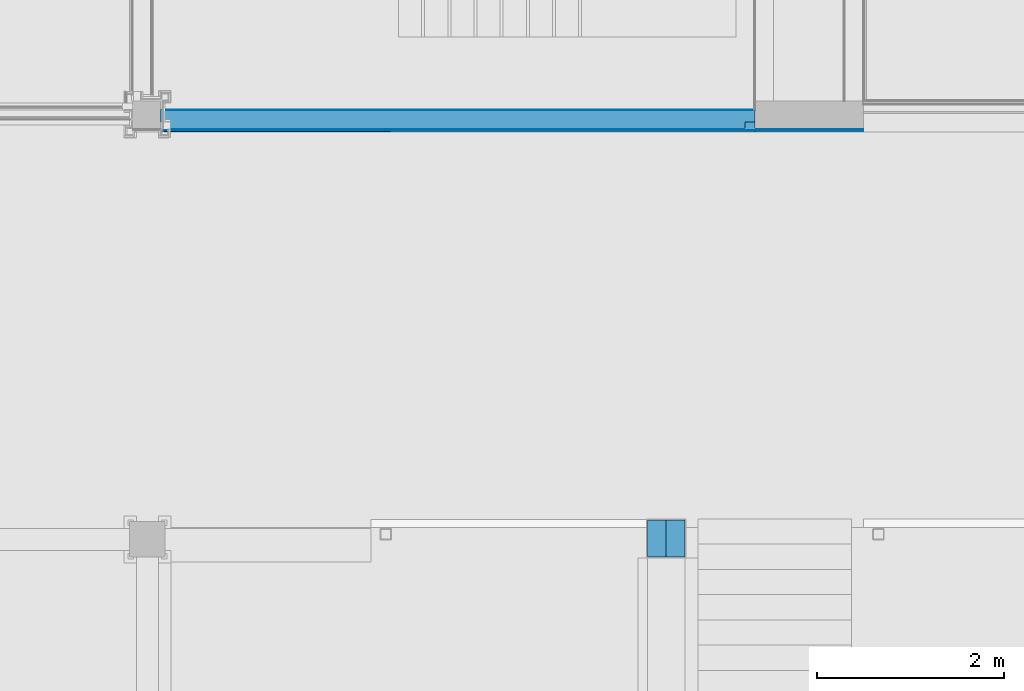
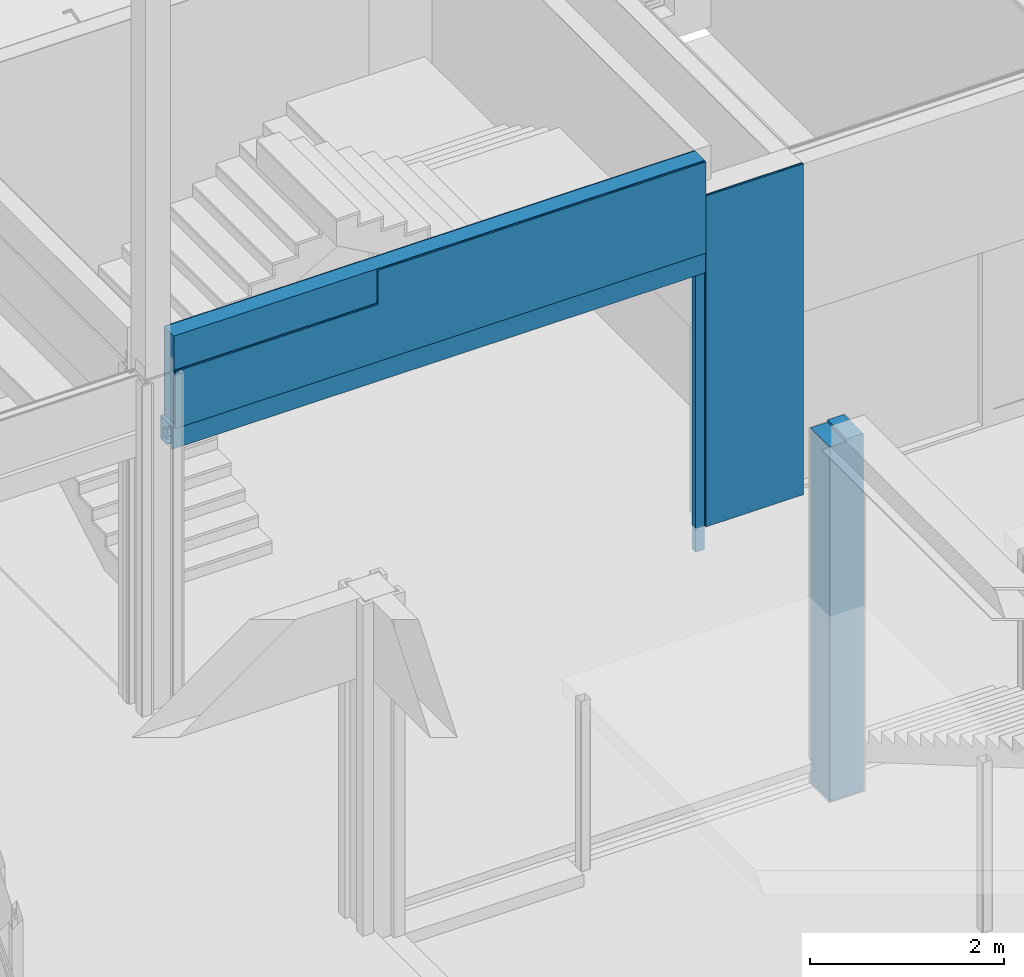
# One storey, part 145 of 260: 7 building element parts, 2 discrete accessories, 1 opening, 3 elements without a shape of their own.
"""IFC2X3 building model written with IfcOpenShell, lengths in millimetres."""

import ifcopenshell
import ifcopenshell.guid

model = None  # the IFC model being written
_history = None  # IfcOwnerHistory: only IFC2X3 demands one
_inside = {}  # id of a spatial element -> (the spatial element, [elements in it])
_under = {}  # id of a project, library or spatial element -> (it, [spatial elements below it])
_declared = {}  # id of a project -> (the project, [libraries it declares])
_typed = {}  # id of a type object -> (the type object, [elements of that type])
_made_of = {}  # id of a material, layer set ... -> (it, [elements and type objects made of it])


def new_model(schema):
    """Start an empty IFC model of exactly this schema.

    Asked for "IFC4X3", IfcOpenShell would pick the latest addendum, in which some entities
    have other attributes; the version numbers below select the first issue.
    IFC2X3 requires an IfcOwnerHistory on every rooted entity: one is made here for all.
    """
    global model, _history
    if schema == "IFC4X3":
        model = ifcopenshell.file(schema_version=(4, 3, 0, 0))
    else:
        model = ifcopenshell.file(schema=schema)
    _inside.clear()
    _under.clear()
    _declared.clear()
    _typed.clear()
    _made_of.clear()
    _history = None
    if model.schema == "IFC2X3":
        org = make("IfcOrganization", Name="unknown")
        user = make(
            "IfcPersonAndOrganization",
            ThePerson=make("IfcPerson", FamilyName="unknown"),
            TheOrganization=org,
        )
        app = make(
            "IfcApplication",
            ApplicationDeveloper=org,
            Version="unknown",
            ApplicationFullName="unknown",
            ApplicationIdentifier="unknown",
        )
        _history = make(
            "IfcOwnerHistory",
            OwningUser=user,
            OwningApplication=app,
            ChangeAction="ADDED",
            CreationDate=0,
        )
    return model


def make(cls, **values):
    """One entity of the class cls with the attributes given. An attribute that is None is left unset."""
    return model.create_entity(
        cls, **{name: value for name, value in values.items() if value is not None}
    )


def entity(cls, *values):
    """Any entity or typed value of the class cls, its attributes in the order of the schema. None: left unset."""
    e = model.create_entity(cls)
    for i, value in enumerate(values):
        if value is not None:
            e[i] = value
    return e


def rooted(cls, **values):
    """An entity with a GlobalId (a new one), such as an element, a storey or a relation."""
    return make(cls, GlobalId=ifcopenshell.guid.new(), OwnerHistory=_history, **values)


def si_unit(unit_type, name, prefix=None):
    """IfcSIUnit, for example si_unit("LENGTHUNIT", "METRE", prefix="MILLI")."""
    return make("IfcSIUnit", UnitType=unit_type, Prefix=prefix, Name=name)


def converted_unit(unit_type, name, factor, base, dimensions=None, offset=None):
    """IfcConversionBasedUnit, such as the inch: factor (a typed value) times the base unit."""
    return make(
        "IfcConversionBasedUnit"
        if offset is None
        else "IfcConversionBasedUnitWithOffset",
        ConversionOffset=offset,
        Dimensions=None
        if dimensions is None
        else entity("IfcDimensionalExponents", *dimensions),
        UnitType=unit_type,
        Name=name,
        ConversionFactor=make(
            "IfcMeasureWithUnit", ValueComponent=factor, UnitComponent=base
        ),
    )


def derived_unit(unit_type, elements):
    """IfcDerivedUnit: a product of units, each with its exponent."""
    return make(
        "IfcDerivedUnit",
        Elements=[
            make("IfcDerivedUnitElement", Unit=unit, Exponent=power)
            for unit, power in elements
        ],
        UnitType=unit_type,
    )


def money_unit(currency):
    """IfcMonetaryUnit."""
    return make("IfcMonetaryUnit", Currency=currency)


def assignment(units):
    """IfcUnitAssignment: the units of a project."""
    return None if units is None else make("IfcUnitAssignment", Units=units)


def point(xyz):
    """IfcCartesianPoint."""
    return None if xyz is None else make("IfcCartesianPoint", Coordinates=xyz)


def direction(xyz):
    """IfcDirection."""
    return None if xyz is None else make("IfcDirection", DirectionRatios=xyz)


def frame(location, z_axis=None, x_axis=None):
    """IfcAxis2Placement3D, a coordinate frame: its origin and axes. An axis left out is left unset."""
    return make(
        "IfcAxis2Placement3D",
        Location=point(location),
        Axis=direction(z_axis),
        RefDirection=direction(x_axis),
    )


def origin_with_axes():
    """The frame at (0, 0, 0) with the z axis (0, 0, 1) and the x axis (1, 0, 0) written out."""
    return frame((0.0, 0.0, 0.0), z_axis=(0.0, 0.0, 1.0), x_axis=(1.0, 0.0, 0.0))


def place(relative_to, where):
    """IfcLocalPlacement: puts the frame where relative to a parent placement (None: the world)."""
    return make(
        "IfcLocalPlacement", PlacementRelTo=relative_to, RelativePlacement=where
    )


def context(
    kind, dimensions, precision=None, world=None, true_north=None, identifier=None
):
    """IfcGeometricRepresentationContext, for example the 3D "Model" context."""
    return make(
        "IfcGeometricRepresentationContext",
        ContextIdentifier=identifier,
        ContextType=kind,
        CoordinateSpaceDimension=dimensions,
        Precision=precision,
        WorldCoordinateSystem=world,
        TrueNorth=true_north,
    )


def subcontext(parent, identifier, kind, view, scale=None):
    """IfcGeometricRepresentationSubContext, for example "Body" below "Model"."""
    return make(
        "IfcGeometricRepresentationSubContext",
        ContextIdentifier=identifier,
        ContextType=kind,
        ParentContext=parent,
        TargetScale=scale,
        TargetView=view,
    )


def project(units=None, contexts=None):
    """IfcProject with its units and contexts."""
    return rooted(
        "IfcProject",
        Name="project",
        RepresentationContexts=contexts,
        UnitsInContext=assignment(units),
    )


def spatial(cls, under=None, at=None, **own):
    """A site, building, storey or space (cls), placed at a placement, below another one or the project."""
    s = rooted(cls, ObjectPlacement=at, **own)
    if under is not None:
        _under.setdefault(under.id(), (under, []))[1].append(s)
    return s


def faces_of(points, faces, orient=None, outer=None):
    """IfcFace entities. A face is a list of loops; a loop is a list of indices into points, from 0.

    orient and outer hold one flag for each loop. By default every Orientation is true, the
    first loop of a face is its IfcFaceOuterBound and the others are IfcFaceBound.
    """
    made = []
    for i, loops in enumerate(faces):
        bounds = []
        for j, loop in enumerate(loops):
            is_outer = j == 0 if outer is None else outer[i][j]
            bounds.append(
                make(
                    "IfcFaceOuterBound" if is_outer else "IfcFaceBound",
                    Bound=make("IfcPolyLoop", Polygon=[points[k] for k in loop]),
                    Orientation=True if orient is None else orient[i][j],
                )
            )
        made.append(make("IfcFace", Bounds=bounds))
    return made


def faceted_brep(points, faces, orient=None, outer=None, voids=None):
    """IfcFacetedBrep: a solid bounded by flat faces; with voids (closed shells), ...WithVoids."""
    shared = [point(p) for p in points]
    hull = make("IfcClosedShell", CfsFaces=faces_of(shared, faces, orient, outer))
    if voids is None:
        return make("IfcFacetedBrep", Outer=hull)
    return make(
        "IfcFacetedBrepWithVoids",
        Outer=hull,
        Voids=[
            make(cls, CfsFaces=faces_of(shared, fs, o, b)) for cls, fs, o, b in voids
        ],
    )


def shape(context_of_items, identifier, shape_type, items):
    """IfcShapeRepresentation: the items that make up one representation, for example the "Body"."""
    return make(
        "IfcShapeRepresentation",
        ContextOfItems=context_of_items,
        RepresentationIdentifier=identifier,
        RepresentationType=shape_type,
        Items=items,
    )


def material(Name=None, Category=None):
    """IfcMaterial."""
    return make("IfcMaterial", Name=Name, Category=Category)


def material_list(materials):
    """IfcMaterialList."""
    return make("IfcMaterialList", Materials=materials)


def made_of(thing, what):
    """Note that an element or type object is made of a material, layer set ...; save() writes the relation."""
    if what is not None:
        _made_of.setdefault(what.id(), (what, []))[1].append(thing)
    return thing


def type_object(cls, material=None, **own):
    """A type object (cls), such as IfcWallType, which elements share."""
    return made_of(rooted(cls, **own), material)


def element(
    cls,
    number,
    at=None,
    inside=None,
    cuts=None,
    type_object=None,
    material=None,
    context=None,
    identifier="Body",
    shape_type=None,
    held_by="IfcProductDefinitionShape",
    body=None,
    shapes=None,
    **own,
):
    """One element of the class cls, such as IfcWall. Its Tag is "e" and its number.

    at: its placement. inside: the storey or other place that contains it. cuts: it is an
    opening in that element (IfcRelVoidsElement). A single representation is given by context,
    identifier, shape_type and body (its items); several are given by shapes. held_by: the class
    of the entity that holds the representations. save() writes the other relations.
    """
    e = rooted(cls, Tag="e%d" % number, ObjectPlacement=at, **own)
    if body is not None:
        shapes = [shape(context, identifier, shape_type, body)]
    if shapes is not None:
        e.Representation = make(held_by, Representations=shapes)
    if inside is not None:
        _inside.setdefault(inside.id(), (inside, []))[1].append(e)
    if cuts is not None:
        rooted(
            "IfcRelVoidsElement", RelatingBuildingElement=cuts, RelatedOpeningElement=e
        )
    if type_object is not None:
        _typed.setdefault(type_object.id(), (type_object, []))[1].append(e)
    return made_of(e, material)


def aggregate(whole, parts):
    """IfcRelAggregates: a whole, such as a stair, and the parts it consists of."""
    return rooted("IfcRelAggregates", RelatingObject=whole, RelatedObjects=parts)


def save(model, path):
    """Write the relations noted so far, then the file.

    IfcRelAggregates (storeys below a building ...), IfcRelContainedInSpatialStructure (elements
    in a storey), IfcRelDefinesByType, IfcRelAssociatesMaterial and IfcRelDeclares: one each for
    every whole, place, type object, material and project.
    """
    for whole, parts in _under.values():
        aggregate(whole, parts)
    for where, things in _inside.values():
        rooted(
            "IfcRelContainedInSpatialStructure",
            RelatedElements=things,
            RelatingStructure=where,
        )
    for kind, things in _typed.values():
        rooted("IfcRelDefinesByType", RelatedObjects=things, RelatingType=kind)
    for what, things in _made_of.values():
        rooted("IfcRelAssociatesMaterial", RelatedObjects=things, RelatingMaterial=what)
    for by, libraries in _declared.values():
        rooted("IfcRelDeclares", RelatingContext=by, RelatedDefinitions=libraries)
    model.write(path)


model = new_model("IFC2X3")

# Units and contexts
model_context = context("Model", 3, precision=0.01, world=origin_with_axes(), true_north=direction((0.0, 1.0)))
body_context = subcontext(model_context, "Body", "Model", "MODEL_VIEW")
ifc_project = project(units=[si_unit("LENGTHUNIT", "METRE", prefix="MILLI"), si_unit("AREAUNIT", "SQUARE_METRE"), si_unit("VOLUMEUNIT", "CUBIC_METRE"), converted_unit("PLANEANGLEUNIT", "DEGREE", entity("IfcPlaneAngleMeasure", 0.0174532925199), si_unit("PLANEANGLEUNIT", "RADIAN"), dimensions=[0, 0, 0, 0, 0, 0, 0]), money_unit("EUR"), converted_unit("TIMEUNIT", "Year", entity("IfcTimeMeasure", 31556926.0), si_unit("TIMEUNIT", "SECOND"), dimensions=[0, 0, 1, 0, 0, 0, 0]), si_unit("MASSUNIT", "GRAM", prefix="KILO"), si_unit("THERMODYNAMICTEMPERATUREUNIT", "DEGREE_CELSIUS"), si_unit("LUMINOUSINTENSITYUNIT", "LUMEN"), si_unit("ENERGYUNIT", "JOULE", prefix="MEGA"), derived_unit("THERMALCONDUCTANCEUNIT", [(si_unit("POWERUNIT", "WATT"), 1), (si_unit("LENGTHUNIT", "METRE"), -1), (si_unit("THERMODYNAMICTEMPERATUREUNIT", "KELVIN"), -1)]), derived_unit("SPECIFICHEATCAPACITYUNIT", [(si_unit("ENERGYUNIT", "JOULE"), 1), (si_unit("MASSUNIT", "GRAM", prefix="KILO"), -1), (si_unit("THERMODYNAMICTEMPERATUREUNIT", "KELVIN"), -1)]), derived_unit("MASSDENSITYUNIT", [(si_unit("MASSUNIT", "GRAM", prefix="KILO"), 1), (si_unit("VOLUMEUNIT", "CUBIC_METRE"), -1)])], contexts=[model_context])

# Site, building, storey
site_placement = place(None, origin_with_axes())
site = spatial("IfcSite", under=ifc_project, at=site_placement, Name="Kolde pst 67a", CompositionType="ELEMENT")
building_placement = place(site_placement, origin_with_axes())
building = spatial("IfcBuilding", under=site, at=building_placement, Name="Riigigümnaasium", CompositionType="ELEMENT")
storey_placement = place(building_placement, origin_with_axes())
storey = spatial("IfcBuildingStorey", under=building, at=storey_placement, Name="1. korrus", CompositionType="ELEMENT", Elevation=0.0)

# Discrete accessories
ifc_material_1 = material(Name="_ÕHK")
ifc_material_2 = material(Name="_METALL - teras")
ifc_material_list = material_list([ifc_material_1, ifc_material_2])
discrete_accessory_type_1 = type_object("IfcDiscreteAccessoryType", Name="Fibreshield-p H kuni 6 m  235 x 290")
discrete_accessory_1_placement = place(storey_placement, frame((59280.0567695, 28804.999656, 3200.0), z_axis=(0.0, 0.0, 1.0), x_axis=(0.0, 1.0, 0.0)))
element("IfcDiscreteAccessory", 1, at=discrete_accessory_1_placement, inside=storey, type_object=discrete_accessory_type_1, material=ifc_material_list, Name="Tuletõkkekardin", context=body_context, shape_type="Brep", body=[
    faceted_brep([(-111.00000004, 6360.06264732, 66.5602862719), (-111.00000004, 6340.06754681, 66.5602862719), (-97.8520772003, 6340.06754681, 63.4245440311), (-97.8520772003, 6360.06264732, 63.4245440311), (-111.00000004, 6340.06754681, 60.6033679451), (-111.00000004, 6360.06264732, 60.6033679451), (-111.00000004, 6340.06754681, 194.160990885), (-111.00000004, 6340.06754681, 188.054352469), (-103.787131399, 6340.06754681, 190.679621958), (-81.2128683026, 6340.06754681, 190.679621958), (-59.999999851, 6340.06754681, 182.958769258), (-42.7071110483, 6340.06754681, 168.448312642), (-31.4199794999, 6340.06754681, 148.898427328), (-27.499999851, 6340.06754681, 126.667118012), (-30.6090574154, 6340.06754681, 106.804810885), (-39.6388073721, 6340.06754681, 88.8425977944), (-53.7254339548, 6340.06754681, 74.4988034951), (-71.5213638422, 6340.06754681, 65.1456028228), (-107.591032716, 6340.06754681, 59.5917922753), (-89.1009241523, 6340.06754681, 57.9991860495), (-70.6684146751, 6340.06754681, 60.1586081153), (-56.4372110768, 6340.06754681, 66.6714909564), (-42.3526829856, 6340.06754681, 77.8281314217), (-31.572193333, 6340.06754681, 92.2026088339), (-24.8060324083, 6340.06754681, 108.84783711), (-22.499999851, 6340.06754681, 126.667118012), (-25.7653806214, 6340.06754681, 147.797442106), (-35.2568740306, 6340.06754681, 166.956378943), (-50.0889560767, 6340.06754681, 182.356464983), (-68.8778440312, 6340.06754681, 192.560924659), (-89.8705986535, 6340.06754681, 196.617716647), (-71.5213638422, 6360.06264732, 65.1456028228), (-111.00000004, 6360.06264732, 188.054352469), (-111.00000004, 6360.06264732, 194.160990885), (-89.8705986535, 6360.06264732, 196.617716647), (-68.8778440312, 6360.06264732, 192.560924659), (-50.0889560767, 6360.06264732, 182.356464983), (-35.2568740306, 6360.06264732, 166.956378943), (-25.7653806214, 6360.06264732, 147.797442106), (-22.499999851, 6360.06264732, 126.667118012), (-24.8060324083, 6360.06264732, 108.84783711), (-31.572193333, 6360.06264732, 92.2026088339), (-42.3526829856, 6360.06264732, 77.8281314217), (-56.4372110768, 6360.06264732, 66.6714909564), (-70.6684146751, 6360.06264732, 60.1586081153), (-89.1009241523, 6360.06264732, 57.9991860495), (-107.591032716, 6360.06264732, 59.5917922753), (-53.7254339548, 6360.06264732, 74.4988034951), (-39.6388073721, 6360.06264732, 88.8425977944), (-30.6090574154, 6360.06264732, 106.804810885), (-27.499999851, 6360.06264732, 126.667118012), (-31.4199794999, 6360.06264732, 148.898427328), (-42.7071110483, 6360.06264732, 168.448312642), (-59.999999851, 6360.06264732, 182.958769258), (-81.2128683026, 6360.06264732, 190.679621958), (-103.787131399, 6360.06264732, 190.679621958)], [[[0, 1, 2, 3]], [[4, 1, 0, 5]], [[6, 7, 8, 9, 10, 11, 12, 13, 14, 15, 16, 17, 2, 1, 4, 18, 19, 20, 21, 22, 23, 24, 25, 26, 27, 28, 29, 30]], [[3, 2, 17, 31]], [[32, 33, 34, 35, 36, 37, 38, 39, 40, 41, 42, 43, 44, 45, 46, 5, 0, 3, 31, 47, 48, 49, 50, 51, 52, 53, 54, 55]], [[4, 5, 46, 18]], [[7, 6, 33, 32]], [[7, 32, 55, 8]], [[54, 9, 8, 55]], [[53, 10, 9, 54]], [[52, 11, 10, 53]], [[51, 12, 11, 52]], [[50, 13, 12, 51]], [[49, 14, 13, 50]], [[48, 15, 14, 49]], [[47, 16, 15, 48]], [[31, 17, 16, 47]], [[45, 19, 18, 46]], [[44, 20, 19, 45]], [[43, 21, 20, 44]], [[42, 22, 21, 43]], [[41, 23, 22, 42]], [[40, 24, 23, 41]], [[39, 25, 24, 40]], [[38, 26, 25, 39]], [[37, 27, 26, 38]], [[36, 28, 27, 37]], [[35, 29, 28, 36]], [[34, 30, 29, 35]], [[33, 6, 30, 34]]]),
    faceted_brep([(-111.00000004, 6255.06264732, 60.6033679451), (-125.382804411, 6255.06264732, 64.871315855), (-123.519091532, 6255.06264732, 69.546054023), (-111.00000004, 6255.06264732, 66.5602862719), (-97.8520772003, 6255.06264732, 63.4245440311), (-81.0000000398, 6255.06264732, 64.5260491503), (-81.0000000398, 6255.06264732, 58.9482328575), (-89.1009241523, 6255.06264732, 57.9991860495), (-107.591032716, 6255.06264732, 59.5917922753), (-107.591032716, 0.0, 59.5917922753), (-125.382804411, 0.0, 64.871315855), (-123.519091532, 0.0, 69.546054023), (-97.8520772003, 0.0, 63.4245440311), (-71.5213638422, 0.0, 65.1456028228), (-71.5213638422, 6310.06754681, 65.1456028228), (-81.0000000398, 6310.06754681, 64.5260491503), (-81.0000000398, 6310.06754681, 58.9482328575), (-70.6684146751, 6310.06754681, 60.1586081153), (-70.6684146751, 0.0, 60.1586081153), (-89.1009241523, 0.0, 57.9991860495), (-24.8060324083, 0.0, 108.84783711), (-22.499999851, 0.0, 126.667118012), (-25.7653806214, 0.0, 147.797442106), (-35.2568740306, 0.0, 166.956378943), (-50.0889560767, 0.0, 182.356464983), (-68.8778440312, 0.0, 192.560924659), (-89.8705986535, 0.0, 196.617716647), (-111.10866745, 0.0, 194.148356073), (-130.610610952, 0.0, 185.383225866), (-146.556964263, 0.0, 171.140082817), (-157.459986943, 0.0, 152.747763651), (-161.228447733, 0.0, 139.948701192), (-162.499999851, 0.0, 126.667118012), (-162.499999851, 0.0, 0.555395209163), (-157.499999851, 0.0, 0.555395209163), (-157.499999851, 0.0, 126.667118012), (-153.580020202, 0.0, 148.898427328), (-142.292888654, 0.0, 168.448312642), (-124.999999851, 0.0, 182.958769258), (-103.787131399, 0.0, 190.679621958), (-81.2128683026, 0.0, 190.679621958), (-59.999999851, 0.0, 182.958769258), (-42.7071110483, 0.0, 168.448312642), (-31.4199794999, 0.0, 148.898427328), (-27.499999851, 0.0, 126.667118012), (-30.6090574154, 0.0, 106.804810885), (-39.6388073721, 0.0, 88.8425977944), (-53.7254339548, 0.0, 74.4988034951), (-56.4372110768, 0.0, 66.6714909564), (-42.3526829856, 0.0, 77.8281314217), (-31.572193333, 0.0, 92.2026088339), (-53.7254339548, 6310.06754681, 74.4988034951), (-35.2568740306, 6310.06754681, 166.956378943), (-25.7653806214, 6310.06754681, 147.797442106), (-22.499999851, 6310.06754681, 126.667118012), (-24.8060324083, 6310.06754681, 108.84783711), (-31.572193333, 6310.06754681, 92.2026088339), (-42.3526829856, 6310.06754681, 77.8281314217), (-56.4372110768, 6310.06754681, 66.6714909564), (-39.6388073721, 6310.06754681, 88.8425977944), (-30.6090574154, 6310.06754681, 106.804810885), (-27.499999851, 6310.06754681, 126.667118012), (-31.4199794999, 6310.06754681, 148.898427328), (-42.7071110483, 6310.06754681, 168.448312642), (-59.999999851, 6310.06754681, 182.958769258), (-81.0000000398, 6310.06754681, 190.602144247), (-81.0000000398, 6310.06754681, 194.903497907), (-68.8778440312, 6310.06754681, 192.560924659), (-50.0889560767, 6310.06754681, 182.356464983), (-81.0000000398, 6255.06264732, 194.903497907), (-89.8705986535, 6255.06264732, 196.617716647), (-111.00000004, 6255.06264732, 194.160990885), (-111.10866745, 6255.06264732, 194.148356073), (-130.610610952, 6255.06264732, 185.383225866), (-146.556964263, 6255.06264732, 171.140082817), (-157.459986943, 6255.06264732, 152.747763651), (-161.228447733, 6255.06264732, 139.948701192), (-162.499999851, 6255.06264732, 126.667118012), (-162.499999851, 6255.06264732, 0.555395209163), (-157.499999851, 6255.06264732, 0.555395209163), (-157.499999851, 6255.06264732, 126.667118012), (-153.580020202, 6255.06264732, 148.898427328), (-142.292888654, 6255.06264732, 168.448312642), (-124.999999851, 6255.06264732, 182.958769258), (-111.00000004, 6255.06264732, 188.054352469), (-103.787131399, 6255.06264732, 190.679621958), (-81.2128683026, 6255.06264732, 190.679621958), (-81.0000000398, 6255.06264732, 190.602144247)], [[[0, 1, 2, 3, 4, 5, 6, 7, 8]], [[1, 0, 8, 9, 10]], [[2, 1, 10, 11]], [[3, 2, 11, 12, 4]], [[13, 14, 15, 5, 4, 12]], [[5, 15, 16, 6]], [[6, 16, 17, 18, 19, 7]], [[9, 8, 7, 19]], [[20, 21, 22, 23, 24, 25, 26, 27, 28, 29, 30, 31, 32, 33, 34, 35, 36, 37, 38, 39, 40, 41, 42, 43, 44, 45, 46, 47, 13, 12, 11, 10, 9, 19, 18, 48, 49, 50]], [[47, 51, 14, 13]], [[52, 53, 54, 55, 56, 57, 58, 17, 16, 15, 14, 51, 59, 60, 61, 62, 63, 64, 65, 66, 67, 68]], [[18, 17, 58, 48]], [[20, 55, 54, 21]], [[21, 54, 53, 22]], [[22, 53, 52, 23]], [[23, 52, 68, 24]], [[24, 68, 67, 25]], [[25, 67, 66, 69, 70, 26]], [[71, 72, 27, 26, 70]], [[72, 73, 28, 27]], [[73, 74, 29, 28]], [[74, 75, 30, 29]], [[75, 76, 31, 30]], [[76, 77, 32, 31]], [[77, 78, 33, 32]], [[78, 79, 34, 33]], [[79, 80, 35, 34]], [[80, 81, 36, 35]], [[81, 82, 37, 36]], [[82, 83, 38, 37]], [[83, 84, 85, 39, 38]], [[39, 85, 86, 40]], [[87, 65, 64, 41, 40, 86]], [[41, 64, 63, 42]], [[42, 63, 62, 43]], [[43, 62, 61, 44]], [[44, 61, 60, 45]], [[45, 60, 59, 46]], [[46, 59, 51, 47]], [[48, 58, 57, 49]], [[49, 57, 56, 50]], [[50, 56, 55, 20]], [[69, 66, 65, 87]], [[84, 83, 82, 81, 80, 79, 78, 77, 76, 75, 74, 73, 72, 71, 70, 69, 87, 86, 85]]]),
    faceted_brep([(-111.00000004, 6255.06264732, 10.0000019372), (-122.368444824, 6255.06264732, 10.0000019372), (-122.368444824, 0.0, 10.0000019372), (14.9999980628, 0.0, 10.0000019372), (14.9999980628, 6360.06264732, 10.0000019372), (-111.00000004, 6360.06264732, 10.0000019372), (-111.00000004, 6255.06264732, 0.0), (-122.368444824, 6255.06264732, 0.0), (-122.368444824, 0.0, 0.0), (25.0, 0.0, 0.0), (25.0, 0.0, 290.0), (-210.000000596, 0.0, 290.0), (-210.000000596, 0.0, 0.0), (-199.999998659, 0.0, 0.0), (-199.999998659, 0.0, 279.999998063), (14.9999980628, 0.0, 279.999998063), (14.9999980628, 6360.06264732, 279.999998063), (-111.00000004, 6360.06264732, 0.0), (-199.999998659, 6360.06264732, 279.999998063), (-199.999998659, 6360.06264732, 0.0), (-210.000000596, 6360.06264732, 0.0), (-210.000000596, 6360.06264732, 290.0), (25.0, 6360.06264732, 290.0), (25.0, 6360.06264732, 0.0)], [[[0, 1, 2, 3, 4, 5]], [[1, 0, 6, 7]], [[1, 7, 8, 2]], [[9, 10, 11, 12, 13, 14, 15, 3, 2, 8]], [[15, 16, 4, 3]], [[17, 5, 4, 16, 18, 19, 20, 21, 22, 23]], [[0, 5, 17, 6]], [[6, 17, 23, 9, 8, 7]], [[9, 23, 22, 10]], [[10, 22, 21, 11]], [[11, 21, 20, 12]], [[12, 20, 19, 13]], [[13, 19, 18, 14]], [[14, 18, 16, 15]]]),
])
discrete_accessory_type_2 = type_object("IfcDiscreteAccessoryType", Name="_METALL - teras 74 x 105")
discrete_accessory_2_placement = place(storey_placement, frame((59227.5567695, 28656.999656, -300.000001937), z_axis=(0.0, 0.0, 1.0), x_axis=(0.0, -1.0, 0.0)))
element("IfcDiscreteAccessory", 2, at=discrete_accessory_2_placement, inside=storey, type_object=discrete_accessory_type_2, material=ifc_material_2, Name="Tuletõkke kardin", context=body_context, shape_type="Brep", body=[
    faceted_brep([(-37.0, -52.5, 3500.00000194), (-37.0, -52.5, 0.0), (37.0, -52.5, 0.0), (37.0, -52.5, 3500.00000194), (-37.0, 52.5, 3500.00000194), (-37.0, 52.5, 0.0), (37.0, 52.5, 0.0), (37.0, 52.5, 3500.00000194)], [[[0, 1, 2, 3]], [[4, 5, 1, 0]], [[2, 1, 5, 6]], [[3, 2, 6, 7]], [[4, 0, 3, 7]], [[7, 6, 5, 4]]]),
])

# Wall, opening, building element parts
wall_type_1 = type_object("IfcWallType", Name="SS-RB-20/3_+krohv+dold 240", PredefinedType="NOTDEFINED")
wall_1_placement = place(storey_placement, frame((59280.0567695, 28619.999656, 0.0), z_axis=(0.0, 0.0, 1.0), x_axis=(-1.0, 0.0, 0.0)))
wall_1 = element("IfcWall", 3, at=wall_1_placement, inside=storey, type_object=wall_type_1, Name="Sisesein")
opening_placement = place(wall_1_placement, frame((3160.53132366, 0.0, 0.0), z_axis=(0.0, 0.0, 1.0), x_axis=(1.0, 0.0, 0.0)))
element("IfcOpeningElement", 4, at=opening_placement, cuts=wall_1, Name="Ukseava", context=body_context, shape_type="Brep", body=[
    faceted_brep([(-3160.53132366, -480.0, 0.0), (-3160.53132366, -480.0, 3450.0), (-3160.53132366, 240.0, 3450.0), (-3160.53132366, 240.0, 0.0), (3160.53132366, -480.0, 0.0), (3160.53132366, -480.0, 3450.0), (3160.53132366, 240.0, 3450.0), (3160.53132366, 240.0, 0.0)], [[[0, 1, 2, 3]], [[0, 4, 5, 1]], [[1, 5, 6, 2]], [[3, 2, 6, 7]], [[4, 0, 3, 7]], [[5, 4, 7, 6]]]),
])
ifc_material_3 = material(Name="_VIIMISTLUSKIHT - viimistlus vastavalt SA osale")
building_element_part_1_placement = place(wall_1_placement, origin_with_axes())
building_element_part_1 = element("IfcBuildingElementPart", 5, at=building_element_part_1_placement, material=ifc_material_3, Name="_VIIMISTLUSKIHT - viimistlus vastavalt SA osale", context=body_context, shape_type="Brep", body=[
    faceted_brep([(0.0, 25.000000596, 3450.0), (0.0, 25.000000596, 3490.0), (0.0, 10.0, 3490.0), (0.0, 10.0, 4600.0), (0.0, 30.0, 4600.0), (0.0, 30.0, 3450.0), (6321.06264732, 25.000000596, 3450.0), (6321.06264732, 25.000000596, 3490.0), (6321.06264732, 10.0, 3490.0), (6321.06264732, 10.0, 4170.0), (3905.06264535, 10.0, 4170.0), (3905.06264535, 10.0, 4600.0), (3905.06264535, 29.9999562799, 4600.0), (3905.06264535, 29.9999562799, 4170.0), (6321.06264732, 30.0, 4170.0), (6321.06264732, 30.0, 3450.0)], [[[0, 1, 2, 3, 4, 5]], [[1, 0, 6, 7]], [[8, 2, 1, 7]], [[2, 8, 9, 10, 11, 3]], [[3, 11, 12, 4]], [[12, 13, 14, 15, 5, 4]], [[6, 0, 5, 15]], [[7, 6, 15, 14, 9, 8]], [[13, 10, 9, 14]], [[12, 11, 10, 13]]]),
])
ifc_material_4 = material(Name="_KARKASS - eriprofiilkinnitus vastavalt sisemisele plaatviimistlusele")
building_element_part_2_placement = place(wall_1_placement, origin_with_axes())
building_element_part_2 = element("IfcBuildingElementPart", 6, at=building_element_part_2_placement, material=ifc_material_4, Name="_KARKASS - eriprofiilkinnitus vastavalt sisemisele plaatviimistlusele", context=body_context, shape_type="Brep", body=[
    faceted_brep([(0.0, 10.0, 3490.0), (0.0, 0.0, 3490.0), (0.0, 0.0, 4600.0), (0.0, 10.0, 4600.0), (6321.06264732, 0.0, 3490.0), (6321.06264732, 10.0, 3490.0), (6321.06264732, 0.0, 4170.0), (3905.06264535, 0.0, 4170.0), (3905.06264535, 0.0, 4600.0), (3905.06264535, 10.0, 4600.0), (3905.06264535, 10.0, 4170.0), (6321.06264732, 10.0, 4170.0)], [[[0, 1, 2, 3]], [[4, 1, 0, 5]], [[1, 4, 6, 7, 8, 2]], [[2, 8, 9, 3]], [[5, 0, 3, 9, 10, 11]], [[4, 5, 11, 6]], [[10, 7, 6, 11]], [[9, 8, 7, 10]]]),
])
ifc_material_5 = material(Name="_KANDETARIND - monteeritav raudbetoon vastavalt EK osale")
building_element_part_3_placement = place(wall_1_placement, origin_with_axes())
building_element_part_3 = element("IfcBuildingElementPart", 7, at=building_element_part_3_placement, material=ifc_material_5, Name="_KANDETARIND - monteeritav raudbetoon vastavalt EK osale", context=body_context, shape_type="Brep", body=[
    faceted_brep([(0.0, 0.0, 3490.0), (0.0, -200.0, 3490.0), (0.0, -200.0, 4600.0), (0.0, 0.0, 4600.0), (6321.06264732, -200.0, 3490.0), (6321.06264732, 0.0, 3490.0), (6321.06264732, -200.0, 4600.0), (6321.06264732, 0.0, 4600.0)], [[[0, 1, 2, 3]], [[4, 1, 0, 5]], [[1, 4, 6, 2]], [[2, 6, 7, 3]], [[5, 0, 3, 7]], [[4, 5, 7, 6]]]),
])
building_element_part_4_placement = place(wall_1_placement, origin_with_axes())
building_element_part_4 = element("IfcBuildingElementPart", 8, at=building_element_part_4_placement, material=ifc_material_3, Name="_VIIMISTLUSKIHT - viimistlus vastavalt SA osale", context=body_context, shape_type="Brep", body=[
    faceted_brep([(0.0, -200.0, 3490.0), (0.0, -210.0, 3490.0), (0.0, -210.0, 4600.0), (0.0, -200.0, 4600.0), (6321.06264732, -210.0, 3490.0), (6321.06264732, -200.0, 3490.0), (6321.06264732, -210.0, 4600.0), (6321.06264732, -200.0, 4600.0)], [[[0, 1, 2, 3]], [[4, 1, 0, 5]], [[1, 4, 6, 2]], [[2, 6, 7, 3]], [[5, 0, 3, 7]], [[4, 5, 7, 6]]]),
])
aggregate(wall_1, [building_element_part_1, building_element_part_2, building_element_part_3, building_element_part_4])

# Column, building element part
column_type = type_object("IfcColumnType", Name="_KANDETARIND - raudbetoon C25/30 vastavalt EK osale 420 x 420", PredefinedType="COLUMN")
column_placement = place(storey_placement, frame((58329.9488577, 24240.2738336, -300.0), z_axis=(0.0, 0.0, 1.0), x_axis=(1.0, 0.0, 0.0)))
column = element("IfcColumn", 9, at=column_placement, inside=storey, type_object=column_type, Name="POST", ObjectType="COLUMN")
ifc_material_6 = material(Name="_KANDETARIND - raudbetoon C25/30 vastavalt EK osale")
building_element_part_5_placement = place(column_placement, origin_with_axes())
building_element_part_5 = element("IfcBuildingElementPart", 10, at=building_element_part_5_placement, material=ifc_material_6, Name="_KANDETARIND - raudbetoon C25/30 vastavalt EK osale", context=body_context, shape_type="Brep", body=[
    faceted_brep([(-200.0, 200.0, 4470.0), (200.0, 200.0, 4470.0), (200.0, 200.0, 0.0), (-200.0, 200.0, 0.0), (200.0, 199.726141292, 4470.0), (-200.0, -200.0, 4470.0), (1.90022433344e-05, -200.0, 4470.0), (1.90022433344e-05, 199.726139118, 4470.0), (200.0, 199.726217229, 4500.0), (200.0, -200.0, 4500.0), (200.0, -200.0, 0.0), (-200.0, -200.0, 0.0), (8.10855809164e-05, -200.0, 4500.0), (1.90022433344e-05, 199.726139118, 4500.0)], [[[0, 1, 2, 3]], [[4, 1, 0, 5, 6, 7]], [[4, 8, 9, 10, 2, 1]], [[10, 11, 3, 2]], [[5, 0, 3, 11]], [[6, 5, 11, 10, 9, 12]], [[12, 13, 7, 6]], [[13, 8, 4, 7]], [[13, 12, 9, 8]]]),
])
aggregate(column, [building_element_part_5])

# Wall, building element parts
wall_type_2 = type_object("IfcWallType", Name="SS-MK-1/1_1x dold pinnakiht 30", PredefinedType="NOTDEFINED")
wall_2_placement = place(storey_placement, frame((59280.0567695, 28619.999656, 0.0), z_axis=(0.0, 0.0, 1.0), x_axis=(1.0, 0.0, 0.0)))
wall_2 = element("IfcWall", 11, at=wall_2_placement, inside=storey, type_object=wall_type_2, Name="Sisesein")
building_element_part_6_placement = place(wall_2_placement, origin_with_axes())
building_element_part_6 = element("IfcBuildingElementPart", 12, at=building_element_part_6_placement, material=ifc_material_4, Name="_KARKASS - eriprofiilkinnitus vastavalt sisemisele plaatviimistlusele", context=body_context, shape_type="Brep", body=[
    faceted_brep([(3.41060513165e-10, -10.0, 4170.0), (1159.93735268, -9.99999996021, 4170.0), (1159.93735268, 3.97832877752e-08, 4170.0), (0.0, 0.0, 4170.0), (3.41060513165e-10, -10.0, 0.0), (1159.93735268, -9.99999996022, 0.0), (1159.93735268, 3.97832877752e-08, 0.0), (0.0, 0.0, 0.0)], [[[0, 1, 2, 3]], [[4, 5, 1, 0]], [[2, 1, 5, 6]], [[3, 2, 6, 7]], [[4, 0, 3, 7]], [[7, 6, 5, 4]]]),
])
ifc_material_7 = material(Name="_VIIMISTLUSKIHT - Dold plaat vastavalt SA osale")
building_element_part_7_placement = place(wall_2_placement, origin_with_axes())
building_element_part_7 = element("IfcBuildingElementPart", 13, at=building_element_part_7_placement, material=ifc_material_7, Name="_VIIMISTLUSKIHT - Dold plaat vastavalt SA osale", context=body_context, shape_type="Brep", body=[
    faceted_brep([(1.03028696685e-09, -30.0, 4170.0), (1159.93735268, -29.9999999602, 4170.0), (1159.93735268, -9.99999996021, 4170.0), (3.41060513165e-10, -10.0, 4170.0), (1.03028696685e-09, -30.0, 0.0), (1159.93735268, -29.9999999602, 0.0), (1159.93735268, -9.99999996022, 0.0), (3.41060513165e-10, -10.0, 0.0)], [[[0, 1, 2, 3]], [[4, 5, 1, 0]], [[2, 1, 5, 6]], [[3, 2, 6, 7]], [[4, 0, 3, 7]], [[7, 6, 5, 4]]]),
])
aggregate(wall_2, [building_element_part_6, building_element_part_7])

save(model, "model.ifc")
